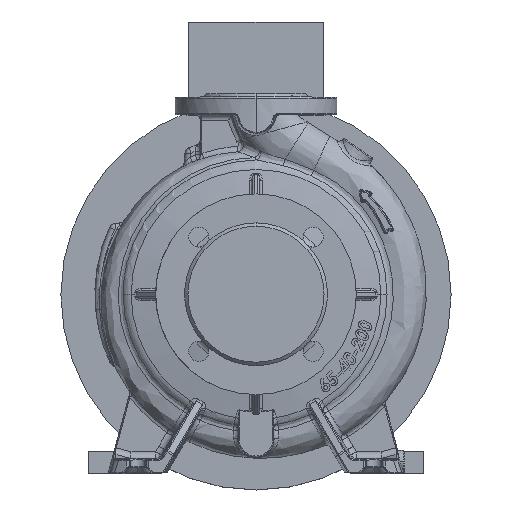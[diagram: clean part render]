
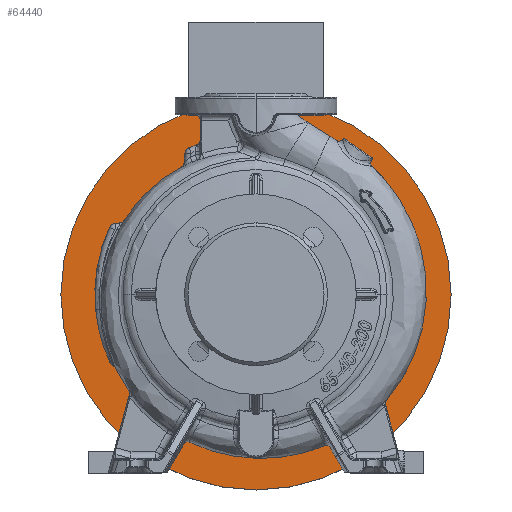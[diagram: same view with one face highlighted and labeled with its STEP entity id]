
A CAD part, top view. The second image highlights one B-rep face of the part: STEP entity #64440.
In plain terms, the highlighted planar face has unit normal (0, 0, 1).
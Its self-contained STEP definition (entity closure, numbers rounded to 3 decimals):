
#6820 = CARTESIAN_POINT ( 'NONE',  ( 0., 0., -221.3 ) ) ;
#7032 = CIRCLE ( 'NONE', #49947, 175. ) ;
#9566 = PLANE ( 'NONE',  #11454 ) ;
#11454 = AXIS2_PLACEMENT_3D ( 'NONE', #22866, #16827, #71008 ) ;
#11726 = EDGE_CURVE ( 'NONE', #44527, #72589, #37904, .T. ) ;
#16827 = DIRECTION ( 'NONE',  ( 0., 0., -1. ) ) ;
#18353 = ORIENTED_EDGE ( 'NONE', *, *, #81857, .T. ) ;
#18887 = CARTESIAN_POINT ( 'NONE',  ( -175., 0., -221.3 ) ) ;
#22060 = FACE_OUTER_BOUND ( 'NONE', #79354, .T. ) ;
#22866 = CARTESIAN_POINT ( 'NONE',  ( 0., 105., -221.3 ) ) ;
#25401 = EDGE_CURVE ( 'NONE', #72589, #44527, #57668, .T. ) ;
#27452 = ORIENTED_EDGE ( 'NONE', *, *, #25401, .F. ) ;
#27677 = DIRECTION ( 'NONE',  ( 1., 0., 0. ) ) ;
#29230 = AXIS2_PLACEMENT_3D ( 'NONE', #50624, #49758, #50053 ) ;
#29372 = CARTESIAN_POINT ( 'NONE',  ( 0., 0., -221.3 ) ) ;
#31217 = DIRECTION ( 'NONE',  ( 0., 0., 1. ) ) ;
#37268 = AXIS2_PLACEMENT_3D ( 'NONE', #6820, #61939, #27677 ) ;
#37904 = CIRCLE ( 'NONE', #29230, 105. ) ;
#44527 = VERTEX_POINT ( 'NONE', #44543 ) ;
#44543 = CARTESIAN_POINT ( 'NONE',  ( 105., 0., -221.3 ) ) ;
#45172 = CARTESIAN_POINT ( 'NONE',  ( -105., 0., -221.3 ) ) ;
#49758 = DIRECTION ( 'NONE',  ( 0., 0., 1. ) ) ;
#49947 = AXIS2_PLACEMENT_3D ( 'NONE', #72419, #31217, #59175 ) ;
#50053 = DIRECTION ( 'NONE',  ( 1., 0., 0. ) ) ;
#50624 = CARTESIAN_POINT ( 'NONE',  ( 0., 0., -221.3 ) ) ;
#52329 = AXIS2_PLACEMENT_3D ( 'NONE', #29372, #63344, #77520 ) ;
#53873 = CARTESIAN_POINT ( 'NONE',  ( 175., 0., -221.3 ) ) ;
#57668 = CIRCLE ( 'NONE', #52329, 105. ) ;
#59175 = DIRECTION ( 'NONE',  ( 1., 0., 0. ) ) ;
#61939 = DIRECTION ( 'NONE',  ( 0., 0., 1. ) ) ;
#63344 = DIRECTION ( 'NONE',  ( 0., 0., 1. ) ) ;
#64440 = ADVANCED_FACE ( 'NONE', ( #82387, #22060 ), #9566, .F. ) ;
#71008 = DIRECTION ( 'NONE',  ( -1., 0., 0. ) ) ;
#71684 = EDGE_LOOP ( 'NONE', ( #80944, #27452 ) ) ;
#72419 = CARTESIAN_POINT ( 'NONE',  ( 0., 0., -221.3 ) ) ;
#72589 = VERTEX_POINT ( 'NONE', #45172 ) ;
#73430 = ORIENTED_EDGE ( 'NONE', *, *, #82094, .T. ) ;
#77520 = DIRECTION ( 'NONE',  ( 1., 0., 0. ) ) ;
#79354 = EDGE_LOOP ( 'NONE', ( #73430, #18353 ) ) ;
#80274 = VERTEX_POINT ( 'NONE', #53873 ) ;
#80944 = ORIENTED_EDGE ( 'NONE', *, *, #11726, .F. ) ;
#81857 = EDGE_CURVE ( 'NONE', #85651, #80274, #84696, .T. ) ;
#82094 = EDGE_CURVE ( 'NONE', #80274, #85651, #7032, .T. ) ;
#82387 = FACE_BOUND ( 'NONE', #71684, .T. ) ;
#84696 = CIRCLE ( 'NONE', #37268, 175. ) ;
#85651 = VERTEX_POINT ( 'NONE', #18887 ) ;
